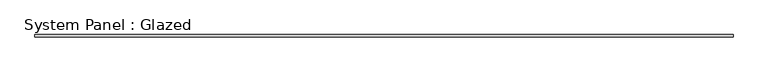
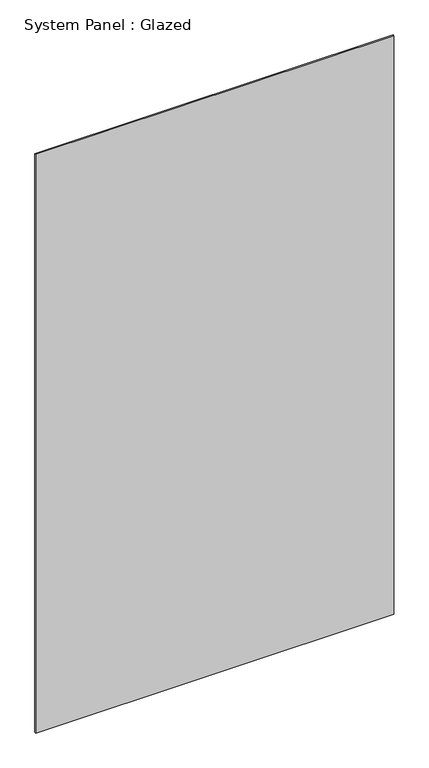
"""IFC4 building model written with IfcOpenShell, lengths in millimetres: plate geometry, System Panel : Glazed."""

from ifc_helpers import new_model, si_unit, origin, origin_with_axes, place, context, project, spatial, polyline, outline, extrude, source, transform, mapped, element, save


def system_panel_glazed_c5c625d1(model_context):
    return source(origin(), model_context, "Body", "SweptSolid", [
        extrude(outline(polyline([(3630.7945663, -49.5), (-3630.7945663, -49.5), (-3630.7945663, -24.5), (3630.7945663, -24.5), (3630.7945663, -49.5)])), origin_with_axes(), (0.0, 0.0, 1.0), 12400.0),
    ])


if __name__ == "__main__":
    model = new_model("IFC4")
    model_context = context("Model", 3, world=origin())
    ifc_project = project(units=[si_unit("LENGTHUNIT", "METRE", prefix="MILLI")], contexts=[model_context])
    site = spatial("IfcSite", under=ifc_project)
    building = spatial("IfcBuilding", under=site)
    placement = place(None, origin())
    system_panel_glazed_shape = system_panel_glazed_c5c625d1(model_context)
    element("IfcPlate", 1, ObjectType="System Panel : Glazed", at=placement, inside=building, context=model_context, shape_type="MappedRepresentation", body=[
        mapped(system_panel_glazed_shape, transform((0.0, 0.0, 0.0), x_axis=(1.0, 0.0, 0.0), y_axis=(0.0, 1.0, 0.0), z_axis=(0.0, 0.0, 1.0))),
    ])
    save(model, "model.ifc")
